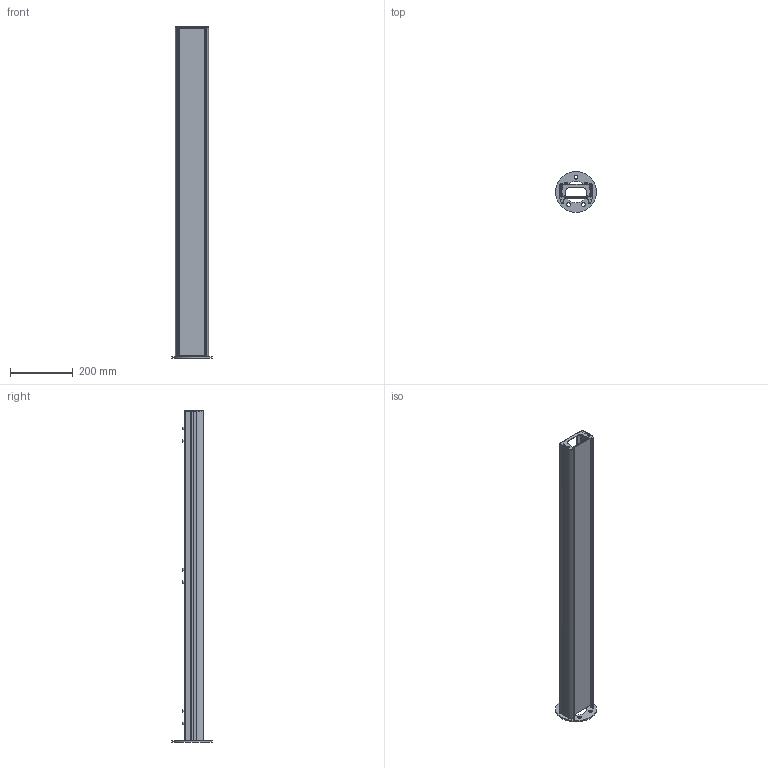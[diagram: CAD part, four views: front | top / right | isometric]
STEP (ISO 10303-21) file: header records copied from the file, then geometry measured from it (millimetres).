
FILE_DESCRIPTION(/* description */ (''),/* implementation_level */ '2;1');
FILE_NAME(/* name */ '0001A__SINGLE_MIRROR_WITH_GASKET-1044MM.stp',/* time_stamp */ '2025-11-12T15:09:22+01:00',/* author */ (''),/* organization */ (''),/* preprocessor_version */ 'ST-DEVELOPER v20',/* originating_system */ 'SIEMENS PLM Software NX2412.4001',/* authorisation */ '');
FILE_SCHEMA (('AP203_CONFIGURATION_CONTROLLED_3D_DESIGN_OF_MECHANICAL_PARTS_AND_ASSEMBLIES_MIM_LF { 1 0 10303 403 2 1 2}'));
Products named in the file (1): AS007808_objects
Bounding box: 130 x 130 x 1058.25 mm (x, y, z)
Volume: 4162476.3 mm3; surface area: 4025179.8 mm2
Topology: 84 solids, 84 shells, 3953 faces, 11002 edges, 7245 vertices
Faces by surface type: plane 2062, cylinder 1255, cone 608, torus 18, bspline 6, sphere 4
Full cylindrical faces by diameter (mm): 4.2 x12, 5 x180, 5.25 x2, 5.3 x12, 5.5 x24, 5.6 x12, 5.795 x2, 7 x12, 7.2 x4, 8.5 x12, 10 x12, 12 x5, 68 x1, 130 x1
Entity records: 143742 total; most frequent: CARTESIAN_POINT 35482, DIRECTION 22912, ORIENTED_EDGE 21328, EDGE_CURVE 10664, AXIS2_PLACEMENT_3D 8658, VERTEX_POINT 7230, LINE 5596, VECTOR 5596
